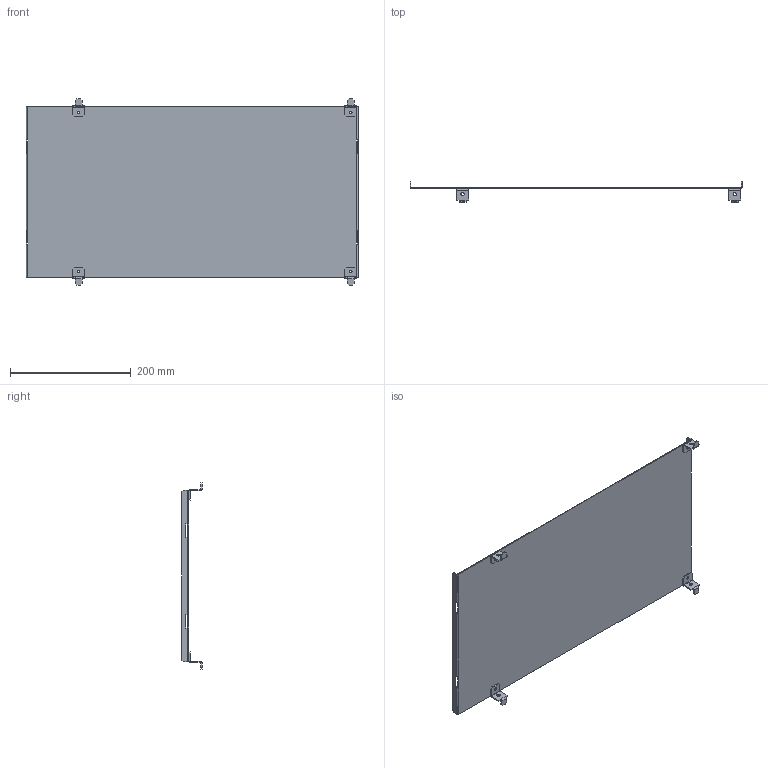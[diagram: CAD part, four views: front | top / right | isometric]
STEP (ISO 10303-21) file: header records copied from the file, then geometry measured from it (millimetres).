
FILE_DESCRIPTION(('CAx-IF Rec.Pracs.---Model Styling and Organization---1.2---2011-12-15','CAx-IF Rec.Pracs.---Geometric and Assembly Validation Properties---4.1---2014-06-16','CAx-IF Rec.Pracs.---PMI Polyline Presentation---2.0---2013-05-24'),'2;1');
FILE_NAME('R5SWM554.stp','2021-05-06T03:11:06+03:00',(''),(''),'STEP Interface 4.4 by CT CoreTechnologie','3D_Evolution4.4 by CT CoreTechnologie','');
FILE_SCHEMA(('AUTOMOTIVE_DESIGN { 1 0 10303 214 1 1 1 1 }'));
Length unit declared in the file: millimetre
Products named in the file (3): R5SWM554; RB.0520.00.00.0; RB.0904.00.00.0_-03 550å400
Assembly tree (5 placements, depth 2):
  R5SWM554
    RB.0520.00.00.0  x4
    RB.0904.00.00.0_-03 550å400
Bounding box: 549 x 33.5 x 308 mm (x, y, z)
Surface area: 331694.5 mm2 (no closed solid volume)
Topology: 0 solids, 5 shells, 176 faces, 534 edges, 360 vertices
Faces by surface type: plane 120, cylinder 56
Entity records: 3504 total; most frequent: CARTESIAN_POINT 590, ORIENTED_EDGE 588, DIRECTION 566, EDGE_CURVE 294, VECTOR 230, LINE 230, VERTEX_POINT 192, AXIS2_PLACEMENT_3D 168
